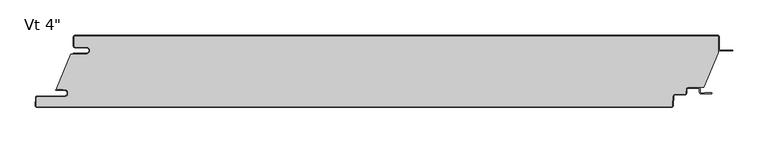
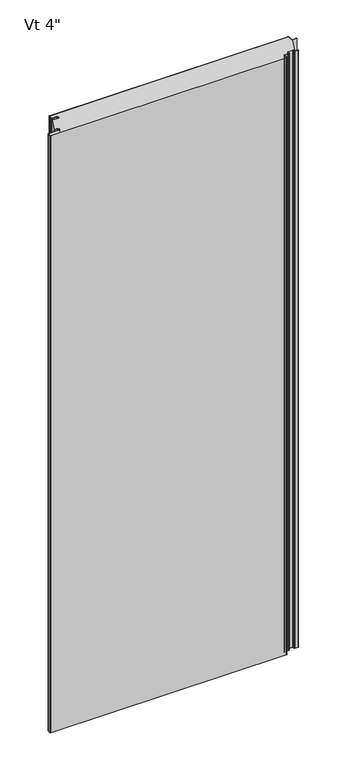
"""IFC4 building model written with IfcOpenShell, lengths in millimetres: plate geometry."""

from ifc_helpers import new_model, si_unit, point, frame, frame_2d, origin, origin_with_axes, place, context, project, spatial, polyline, circle_curve, ellipse_curve, trimmed, segment, composite_curve, outline, extrude, source, transform, mapped, element, save
from ifc_brep_helpers import plane_surface, cylinder_surface, revolved_surface, extruded_surface, advanced_brep


def plate_ccc09a26(model_context):
    return source(origin(), model_context, "Body", "SolidModel", [
        extrude(outline(composite_curve([segment(polyline([(-438.1437502, -16.4625), (-454.0187502, -16.4625)]), True, "CONTINUOUS"), segment(trimmed(circle_curve(frame_2d((-454.0187502, -15.08125)), 1.38125), [point((-454.0187502, -16.4625))], [point((-455.4000002, -15.08125))], False, "CARTESIAN"), True, "CONTINUOUS"), segment(polyline([(-455.4000002, -15.08125), (-455.4000002, -2.38125)]), True, "CONTINUOUS"), segment(trimmed(circle_curve(frame_2d((-454.0187502, -2.38125)), 1.38125), [point((-455.4000002, -2.38125))], [point((-454.0187502, -1.0))], False, "CARTESIAN"), True, "CONTINUOUS"), segment(polyline([(-454.0187502, -1.0), (454.0312498, -1.0)]), True, "CONTINUOUS"), segment(trimmed(circle_curve(frame_2d((454.0312498, -2.38125)), 1.38125), [point((454.0312498, -1.0))], [point((455.4124998, -2.38125))], False, "CARTESIAN"), True, "CONTINUOUS"), segment(polyline([(455.4124998, -2.38125), (455.4124998, -24.9057308), (434.5955432, -73.6125), (412.1540781, -73.6125)]), True, "CONTINUOUS"), segment(trimmed(circle_curve(frame_2d((412.1540781, -76.2)), 2.5875), [point((412.1540781, -73.6125))], [point((409.5701242, -76.0645807))], True, "CARTESIAN"), True, "CONTINUOUS"), segment(polyline([(409.5701242, -76.0645807), (409.2680479, -81.828539)]), True, "CONTINUOUS"), segment(trimmed(circle_curve(frame_2d((407.8886909, -81.75625)), 1.38125), [point((409.2680479, -81.828539))], [point((407.8886909, -83.1375))], False, "CARTESIAN"), True, "CONTINUOUS"), segment(polyline([(407.8886909, -83.1375), (393.7323845, -83.1375)]), True, "CONTINUOUS"), segment(trimmed(circle_curve(frame_2d((393.7323845, -85.725)), 2.5875), [point((393.7323845, -83.1375))], [point((391.1484306, -85.5895807))], True, "CARTESIAN"), True, "CONTINUOUS"), segment(polyline([(391.1484306, -85.5895807), (390.4303676, -99.291039)]), True, "CONTINUOUS"), segment(trimmed(circle_curve(frame_2d((389.0510105, -99.21875)), 1.38125), [point((390.4303676, -99.291039))], [point((389.0510105, -100.6))], False, "CARTESIAN"), True, "CONTINUOUS"), segment(polyline([(389.0510105, -100.6), (-507.8799537, -100.6)]), True, "CONTINUOUS"), segment(trimmed(circle_curve(frame_2d((-507.8799537, -99.21875)), 1.38125), [point((-507.8799537, -100.6))], [point((-509.2593107, -99.146461))], False, "CARTESIAN"), True, "CONTINUOUS"), segment(polyline([(-509.2593107, -99.146461), (-508.6769293, -88.033961)]), True, "CONTINUOUS"), segment(trimmed(circle_curve(frame_2d((-507.2975722, -88.10625)), 1.38125), [point((-508.6769293, -88.033961))], [point((-507.2975722, -86.725))], False, "CARTESIAN"), True, "CONTINUOUS"), segment(polyline([(-507.2975722, -86.725), (-469.1142676, -86.725)]), True, "CONTINUOUS"), segment(trimmed(circle_curve(frame_2d((-469.1142676, -81.75625)), 4.96875), [point((-469.1142676, -86.725))], [point((-469.1142676, -76.7875))], True, "CARTESIAN"), True, "CONTINUOUS"), segment(polyline([(-469.1142676, -76.7875), (-470.7017676, -76.99375), (-470.7017676, -76.2), (-480.2125002, -76.2), (-480.2125002, -74.6157227), (-460.3260924, -26.4), (-438.1437502, -26.4)]), True, "CONTINUOUS"), segment(trimmed(circle_curve(frame_2d((-438.1437502, -21.43125)), 4.96875), [point((-438.1437502, -26.4))], [point((-438.1437502, -16.4625))], True, "CARTESIAN"), True, "CONTINUOUS")], self_intersect=False)), origin_with_axes(), (0.0, 0.0, 1.0), 2400.0),
        extrude(outline(composite_curve([segment(polyline([(-456.4000002, -25.4), (-438.1437502, -25.4)]), True, "CONTINUOUS"), segment(trimmed(circle_curve(frame_2d((-438.1437502, -21.43125)), 3.96875), [point((-438.1437502, -25.4))], [point((-438.1437502, -17.4625))], True, "CARTESIAN"), True, "CONTINUOUS"), segment(polyline([(-438.1437502, -17.4625), (-454.0187502, -17.4625)]), True, "CONTINUOUS"), segment(trimmed(circle_curve(frame_2d((-454.0187502, -15.08125)), 2.38125), [point((-454.0187502, -17.4625))], [point((-456.4000002, -15.08125))], False, "CARTESIAN"), True, "CONTINUOUS"), segment(polyline([(-456.4000002, -15.08125), (-456.4000002, -2.38125)]), True, "CONTINUOUS"), segment(trimmed(circle_curve(frame_2d((-454.0187502, -2.38125)), 2.38125), [point((-456.4000002, -2.38125))], [point((-454.0187502, 0.0))], False, "CARTESIAN"), True, "CONTINUOUS"), segment(polyline([(-454.0187502, 0.0), (454.0312498, 0.0)]), True, "CONTINUOUS"), segment(trimmed(circle_curve(frame_2d((454.0312498, -2.38125)), 2.38125), [point((454.0312498, 0.0))], [point((456.4124998, -2.38125))], False, "CARTESIAN"), True, "CONTINUOUS"), segment(polyline([(456.4124998, -2.38125), (456.4124998, -19.446875)]), True, "CONTINUOUS"), segment(trimmed(circle_curve(frame_2d((457.9999998, -19.446875)), 1.5875), [point((456.4124998, -19.446875))], [point((457.9999998, -21.034375))], True, "CARTESIAN"), True, "CONTINUOUS"), segment(polyline([(457.9999998, -21.034375), (475.4624998, -21.034375), (475.4624998, -22.034375), (457.9999998, -22.034375)]), True, "CONTINUOUS"), segment(trimmed(circle_curve(frame_2d((457.9999998, -19.446875)), 2.5875), [point((457.9999998, -22.034375))], [point((455.4124998, -19.446875))], False, "CARTESIAN"), True, "CONTINUOUS"), segment(polyline([(455.4124998, -19.446875), (455.4124998, -2.38125)]), True, "CONTINUOUS"), segment(trimmed(circle_curve(frame_2d((454.0312498, -2.38125)), 1.38125), [point((455.4124998, -2.38125))], [point((454.0312498, -1.0))], True, "CARTESIAN"), True, "CONTINUOUS"), segment(polyline([(454.0312498, -1.0), (-454.0187502, -1.0)]), True, "CONTINUOUS"), segment(trimmed(circle_curve(frame_2d((-454.0187502, -2.38125)), 1.38125), [point((-454.0187502, -1.0))], [point((-455.4000002, -2.38125))], True, "CARTESIAN"), True, "CONTINUOUS"), segment(polyline([(-455.4000002, -2.38125), (-455.4000002, -15.08125)]), True, "CONTINUOUS"), segment(trimmed(circle_curve(frame_2d((-454.0187502, -15.08125)), 1.38125), [point((-455.4000002, -15.08125))], [point((-454.0187502, -16.4625))], True, "CARTESIAN"), True, "CONTINUOUS"), segment(polyline([(-454.0187502, -16.4625), (-438.1437502, -16.4625)]), True, "CONTINUOUS"), segment(trimmed(circle_curve(frame_2d((-438.1437502, -21.43125)), 4.96875), [point((-438.1437502, -16.4625))], [point((-438.1437502, -26.4))], False, "CARTESIAN"), True, "CONTINUOUS"), segment(polyline([(-438.1437502, -26.4), (-456.4000002, -26.4), (-456.4000002, -25.4)]), True, "CONTINUOUS")], self_intersect=False)), origin_with_axes(), (0.0, 0.0, 1.0), 2400.0),
        advanced_brep(
        [(-480.4252051, -76.2, 2400.0), (-480.4252051, -77.7875, 2400.0), (-469.1142676, -77.7875, 2400.0), (-469.1142676, -85.725, 2400.0), (-507.2975722, -85.725, 2400.0), (-509.6755588, -87.981625, 2400.0), (-510.2579402, -99.094125, 2400.0), (-507.8799537, -101.6, 2400.0), (389.0510105, -101.6, 2400.0), (391.4289971, -99.343375, 2400.0), (392.1470601, -85.6419167, 2400.0), (393.7323845, -84.1375, 2400.0), (407.8886909, -84.1375, 2400.0), (410.2666775, -81.880875, 2400.0), (410.5687537, -76.1169167, 2400.0), (412.1540781, -74.6125, 2400.0), (427.0294824, -74.6125, 2400.0), (428.6169824, -76.2, 2400.0), (428.6169824, -80.3671875, 2400.0), (430.9982324, -82.7484375, 2400.0), (445.489853, -82.7484375, 2400.0), (445.489853, -80.9546875, 2400.0), (435.7607324, -80.9546875, 2400.0), (435.7607324, -81.7484375, 2400.0), (430.9982324, -81.7484375, 2400.0), (429.6169824, -80.3671875, 2400.0), (429.6169824, -76.2, 2400.0), (427.0294824, -73.6125, 2400.0), (412.1540781, -73.6125, 2400.0), (409.5701242, -76.0645807, 2400.0), (409.2680479, -81.828539, 2400.0), (407.8886909, -83.1375, 2400.0), (393.7323845, -83.1375, 2400.0), (391.1484306, -85.5895807, 2400.0), (390.4303676, -99.291039, 2400.0), (389.0510105, -100.6, 2400.0), (-507.8799537, -100.6, 2400.0), (-509.2593107, -99.146461, 2400.0), (-508.6769293, -88.033961, 2400.0), (-507.2975722, -86.725, 2400.0), (-469.1142676, -86.725, 2400.0), (-469.1142676, -76.7875, 2400.0), (-470.7017676, -76.99375, 2400.0), (-470.7017676, -76.2, 2400.0), (-480.4252051, -76.2, 0.0), (-470.7017676, -76.2, 0.0), (-470.7017676, -76.99375, 0.0), (-469.1142676, -76.7875, 0.0), (-469.1142676, -86.725, 0.0), (-507.2975722, -86.725, 0.0), (-508.6769293, -88.033961, 0.0), (-509.2593107, -99.146461, 0.0), (-507.8799537, -100.6, 0.0), (389.0510105, -100.6, 0.0), (390.4303676, -99.291039, 0.0), (391.1484306, -85.5895807, 0.0), (393.7323845, -83.1375, 0.0), (407.8886909, -83.1375, 0.0), (409.2680479, -81.828539, 0.0), (409.5701242, -76.0645807, 0.0), (412.1540781, -73.6125, 0.0), (427.0294824, -73.6125, 0.0), (429.6169824, -76.2, 0.0), (429.6169824, -80.3671875, 0.0), (430.9982324, -81.7484375, 0.0), (435.7607324, -81.7484375, 0.0), (435.7607324, -80.9546875, 0.0), (445.489853, -80.9546875, 0.0), (445.489853, -82.7484375, 0.0), (430.9982324, -82.7484375, 0.0), (428.6169824, -80.3671875, 0.0), (428.6169824, -76.2, 0.0), (427.0294824, -74.6125, 0.0), (412.1540781, -74.6125, 0.0), (410.5687537, -76.1169167, 0.0), (410.2666775, -81.880875, 0.0), (407.8886909, -84.1375, 0.0), (393.7323845, -84.1375, 0.0), (392.1470601, -85.6419167, 0.0), (391.4289971, -99.343375, 0.0), (389.0510105, -101.6, 0.0), (-507.8799537, -101.6, 0.0), (-510.2579402, -99.094125, 0.0), (-509.6755588, -87.981625, 0.0), (-507.2975722, -85.725, 0.0), (-469.1142676, -85.725, 0.0), (-469.1142676, -77.7875, 0.0), (-480.4252051, -77.7875, 0.0)],
        [
            (0, 1, circle_curve(frame((-480.4252051, -76.99375, 2400.0), z_axis=(0.0, 0.0, 1.0), x_axis=(-1.0, 0.0, 0.0)), 0.79375)),
            (1, 2),
            (2, 3, circle_curve(frame((-469.1142676, -81.75625, 2400.0), z_axis=(0.0, 0.0, -1.0), x_axis=(-1.0, 0.0, 0.0)), 3.96875)),
            (3, 4),
            (4, 5, circle_curve(frame((-507.2975722, -88.10625, 2400.0), z_axis=(0.0, 0.0, 1.0), x_axis=(-1.0, 0.0, 0.0)), 2.38125)),
            (5, 6),
            (6, 7, circle_curve(frame((-507.8799537, -99.21875, 2400.0), z_axis=(0.0, 0.0, 1.0), x_axis=(-1.0, 0.0, 0.0)), 2.38125)),
            (7, 8),
            (8, 9, circle_curve(frame((389.0510105, -99.21875, 2400.0), z_axis=(0.0, 0.0, 1.0), x_axis=(-1.0, 0.0, 0.0)), 2.38125)),
            (9, 10),
            (10, 11, circle_curve(frame((393.7323845, -85.725, 2400.0), z_axis=(0.0, 0.0, -1.0), x_axis=(-1.0, 0.0, 0.0)), 1.5875)),
            (11, 12),
            (12, 13, circle_curve(frame((407.8886909, -81.75625, 2400.0), z_axis=(0.0, 0.0, 1.0), x_axis=(-1.0, 0.0, 0.0)), 2.38125)),
            (13, 14),
            (14, 15, circle_curve(frame((412.1540781, -76.2, 2400.0), z_axis=(0.0, 0.0, -1.0), x_axis=(-1.0, 0.0, 0.0)), 1.5875)),
            (15, 16),
            (16, 17, circle_curve(frame((427.0294824, -76.2, 2400.0), z_axis=(0.0, 0.0, -1.0), x_axis=(-1.0, 0.0, 0.0)), 1.5875)),
            (17, 18),
            (18, 19, circle_curve(frame((430.9982324, -80.3671875, 2400.0), z_axis=(0.0, 0.0, 1.0), x_axis=(-1.0, 0.0, 0.0)), 2.38125)),
            (19, 20),
            (20, 21, ellipse_curve(frame((445.489853, -81.8515625, 2400.0), z_axis=(0.0, 0.0, 1.0), x_axis=(0.0, 1.0, 0.0)), 0.896875, 0.7852275)),
            (21, 22),
            (22, 23),
            (23, 24),
            (24, 25, circle_curve(frame((430.9982324, -80.3671875, 2400.0), z_axis=(0.0, 0.0, -1.0), x_axis=(-1.0, 0.0, 0.0)), 1.38125)),
            (25, 26),
            (26, 27, circle_curve(frame((427.0294824, -76.2, 2400.0), z_axis=(0.0, 0.0, 1.0), x_axis=(-1.0, 0.0, 0.0)), 2.5875)),
            (27, 28),
            (28, 29, circle_curve(frame((412.1540781, -76.2, 2400.0), z_axis=(0.0, 0.0, 1.0), x_axis=(-1.0, 0.0, 0.0)), 2.5875)),
            (29, 30),
            (30, 31, circle_curve(frame((407.8886909, -81.75625, 2400.0), z_axis=(0.0, 0.0, -1.0), x_axis=(-1.0, 0.0, 0.0)), 1.38125)),
            (31, 32),
            (32, 33, circle_curve(frame((393.7323845, -85.725, 2400.0), z_axis=(0.0, 0.0, 1.0), x_axis=(-1.0, 0.0, 0.0)), 2.5875)),
            (33, 34),
            (34, 35, circle_curve(frame((389.0510105, -99.21875, 2400.0), z_axis=(0.0, 0.0, -1.0), x_axis=(-1.0, 0.0, 0.0)), 1.38125)),
            (35, 36),
            (36, 37, circle_curve(frame((-507.8799537, -99.21875, 2400.0), z_axis=(0.0, 0.0, -1.0), x_axis=(-1.0, 0.0, 0.0)), 1.38125)),
            (37, 38),
            (38, 39, circle_curve(frame((-507.2975722, -88.10625, 2400.0), z_axis=(0.0, 0.0, -1.0), x_axis=(-1.0, 0.0, 0.0)), 1.38125)),
            (39, 40),
            (40, 41, circle_curve(frame((-469.1142676, -81.75625, 2400.0), z_axis=(0.0, 0.0, 1.0), x_axis=(-1.0, 0.0, 0.0)), 4.96875)),
            (41, 42),
            (42, 43),
            (43, 0),
            (44, 45),
            (45, 46),
            (46, 47),
            (47, 48, circle_curve(frame((-469.1142676, -81.75625, 0.0), z_axis=(0.0, 0.0, -1.0), x_axis=(-1.0, 0.0, 0.0)), 4.96875)),
            (48, 49),
            (49, 50, circle_curve(frame((-507.2975722, -88.10625, 0.0), z_axis=(0.0, 0.0, 1.0), x_axis=(-1.0, 0.0, 0.0)), 1.38125)),
            (50, 51),
            (51, 52, circle_curve(frame((-507.8799537, -99.21875, 0.0), z_axis=(0.0, 0.0, 1.0), x_axis=(-1.0, 0.0, 0.0)), 1.38125)),
            (52, 53),
            (53, 54, circle_curve(frame((389.0510105, -99.21875, 0.0), z_axis=(0.0, 0.0, 1.0), x_axis=(-1.0, 0.0, 0.0)), 1.38125)),
            (54, 55),
            (55, 56, circle_curve(frame((393.7323845, -85.725, 0.0), z_axis=(0.0, 0.0, -1.0), x_axis=(-1.0, 0.0, 0.0)), 2.5875)),
            (56, 57),
            (57, 58, circle_curve(frame((407.8886909, -81.75625, 0.0), z_axis=(0.0, 0.0, 1.0), x_axis=(-1.0, 0.0, 0.0)), 1.38125)),
            (58, 59),
            (59, 60, circle_curve(frame((412.1540781, -76.2, 0.0), z_axis=(0.0, 0.0, -1.0), x_axis=(-1.0, 0.0, 0.0)), 2.5875)),
            (60, 61),
            (61, 62, circle_curve(frame((427.0294824, -76.2, 0.0), z_axis=(0.0, 0.0, -1.0), x_axis=(-1.0, 0.0, 0.0)), 2.5875)),
            (62, 63),
            (63, 64, circle_curve(frame((430.9982324, -80.3671875, 0.0), z_axis=(0.0, 0.0, 1.0), x_axis=(-1.0, 0.0, 0.0)), 1.38125)),
            (64, 65),
            (65, 66),
            (66, 67),
            (67, 68, ellipse_curve(frame((445.489853, -81.8515625, 0.0), z_axis=(0.0, 0.0, -1.0), x_axis=(0.0, 1.0, 0.0)), 0.896875, 0.7852275)),
            (68, 69),
            (69, 70, circle_curve(frame((430.9982324, -80.3671875, 0.0), z_axis=(0.0, 0.0, -1.0), x_axis=(-1.0, 0.0, 0.0)), 2.38125)),
            (70, 71),
            (71, 72, circle_curve(frame((427.0294824, -76.2, 0.0), z_axis=(0.0, 0.0, 1.0), x_axis=(-1.0, 0.0, 0.0)), 1.5875)),
            (72, 73),
            (73, 74, circle_curve(frame((412.1540781, -76.2, 0.0), z_axis=(0.0, 0.0, 1.0), x_axis=(-1.0, 0.0, 0.0)), 1.5875)),
            (74, 75),
            (75, 76, circle_curve(frame((407.8886909, -81.75625, 0.0), z_axis=(0.0, 0.0, -1.0), x_axis=(-1.0, 0.0, 0.0)), 2.38125)),
            (76, 77),
            (77, 78, circle_curve(frame((393.7323845, -85.725, 0.0), z_axis=(0.0, 0.0, 1.0), x_axis=(-1.0, 0.0, 0.0)), 1.5875)),
            (78, 79),
            (79, 80, circle_curve(frame((389.0510105, -99.21875, 0.0), z_axis=(0.0, 0.0, -1.0), x_axis=(-1.0, 0.0, 0.0)), 2.38125)),
            (80, 81),
            (81, 82, circle_curve(frame((-507.8799537, -99.21875, 0.0), z_axis=(0.0, 0.0, -1.0), x_axis=(-1.0, 0.0, 0.0)), 2.38125)),
            (82, 83),
            (83, 84, circle_curve(frame((-507.2975722, -88.10625, 0.0), z_axis=(0.0, 0.0, -1.0), x_axis=(-1.0, 0.0, 0.0)), 2.38125)),
            (84, 85),
            (85, 86, circle_curve(frame((-469.1142676, -81.75625, 0.0), z_axis=(0.0, 0.0, 1.0), x_axis=(-1.0, 0.0, 0.0)), 3.96875)),
            (86, 87),
            (87, 44, circle_curve(frame((-480.4252051, -76.99375, 0.0), z_axis=(0.0, 0.0, -1.0), x_axis=(-1.0, 0.0, 0.0)), 0.79375)),
            (43, 45),
            (44, 0),
            (87, 1),
            (86, 2),
            (85, 3),
            (84, 4),
            (83, 5),
            (82, 6),
            (81, 7),
            (80, 8),
            (79, 9),
            (78, 10),
            (77, 11),
            (76, 12),
            (75, 13),
            (74, 14),
            (73, 15),
            (38, 50),
            (49, 39),
            (37, 51),
            (36, 52),
            (35, 53),
            (34, 54),
            (33, 55),
            (32, 56),
            (31, 57),
            (30, 58),
            (29, 59),
            (28, 60),
            (23, 65),
            (64, 24),
            (63, 25),
            (62, 26),
            (72, 16),
            (71, 17),
            (70, 18),
            (69, 19),
            (68, 20),
            (27, 61),
            (48, 40),
            (47, 41),
            (42, 46),
            (22, 66),
            (21, 67),
        ],
        [
            plane_surface(frame((0.0062498, -101.6, 2400.0), z_axis=(0.0, 0.0, 1.0), x_axis=(0.0, -1.0, 0.0))),
            plane_surface(frame((0.0062498, -101.6, 0.0), z_axis=(0.0, 0.0, -1.0), x_axis=(0.0, -1.0, 0.0))),
            plane_surface(frame((-480.4252051, -76.2, 2400.0), z_axis=(0.0, 1.0, 0.0), x_axis=(0.0, 0.0, -1.0))),
            cylinder_surface(frame((-480.4252051, -76.99375, 2400.0), z_axis=(0.0, 0.0, 1.0), x_axis=(-1.0, 0.0, 0.0)), 0.79375),
            plane_surface(frame((-469.1142676, -77.7875, 2400.0), z_axis=(0.0, -1.0, 0.0), x_axis=(0.0, 0.0, -1.0))),
            revolved_surface(polyline([(-473.0830176, -81.75625, 0.0), (-473.0830176, -81.75625, 2400.0)]), (-469.1142676, -81.75625, 2400.0), (0.0, 0.0, -1.0)),
            plane_surface(frame((-507.2975722, -85.725, 2400.0), z_axis=(0.0, 1.0, 0.0), x_axis=(0.0, 0.0, -1.0))),
            cylinder_surface(frame((-507.2975722, -88.10625, 2400.0), z_axis=(0.0, 0.0, 1.0), x_axis=(-1.0, 0.0, 0.0)), 2.38125),
            plane_surface(frame((-510.2579402, -99.094125, 2400.0), z_axis=(-0.9986295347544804, 0.05233595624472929, 0.0), x_axis=(0.0, 0.0, -1.0))),
            cylinder_surface(frame((-507.8799537, -99.21875, 2400.0), z_axis=(0.0, 0.0, 1.0), x_axis=(-1.0, 0.0, 0.0)), 2.38125),
            plane_surface(frame((389.0510105, -101.6, 2400.0), z_axis=(0.0, -1.0, 0.0), x_axis=(0.0, 0.0, -1.0))),
            cylinder_surface(frame((389.0510105, -99.21875, 2400.0), z_axis=(0.0, 0.0, 1.0), x_axis=(-1.0, 0.0, 0.0)), 2.38125),
            plane_surface(frame((392.1470601, -85.6419167, 2400.0), z_axis=(0.9986295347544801, -0.05233595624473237, 0.0), x_axis=(0.0, 0.0, -1.0))),
            revolved_surface(polyline([(392.14488450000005, -85.725, 0.0), (392.14488450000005, -85.725, 2400.0)]), (393.7323845, -85.725, 2400.0), (0.0, 0.0, -1.0)),
            plane_surface(frame((407.8886909, -84.1375, 2400.0), z_axis=(0.0, -1.0, 0.0), x_axis=(0.0, 0.0, -1.0))),
            cylinder_surface(frame((407.8886909, -81.75625, 2400.0), z_axis=(0.0, 0.0, 1.0), x_axis=(-1.0, 0.0, 0.0)), 2.38125),
            plane_surface(frame((410.5687537, -76.1169167, 2400.0), z_axis=(0.9986295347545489, -0.05233595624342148, 0.0), x_axis=(0.0, 0.0, -1.0))),
            revolved_surface(polyline([(410.5665781, -76.2, 0.0), (410.5665781, -76.2, 2400.0)]), (412.1540781, -76.2, 2400.0), (0.0, 0.0, -1.0)),
            revolved_surface(polyline([(-508.6788222, -88.10625, 0.0), (-508.6788222, -88.10625, 2400.0)]), (-507.2975722, -88.10625, 2400.0), (0.0, 0.0, -1.0)),
            plane_surface(frame((-508.6769293, -88.033961, 2400.0), z_axis=(0.9986295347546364, -0.05233595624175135, 0.0), x_axis=(0.0, 0.0, -1.0))),
            revolved_surface(polyline([(-509.2612037, -99.21875, 0.0), (-509.2612037, -99.21875, 2400.0)]), (-507.8799537, -99.21875, 2400.0), (0.0, 0.0, -1.0)),
            plane_surface(frame((-507.8799537, -100.6, 2400.0), z_axis=(0.0, 1.0, 0.0), x_axis=(0.0, 0.0, -1.0))),
            revolved_surface(polyline([(387.6697605, -99.21875, 0.0), (387.6697605, -99.21875, 2400.0)]), (389.0510105, -99.21875, 2400.0), (0.0, 0.0, -1.0)),
            plane_surface(frame((390.4303676, -99.291039, 2400.0), z_axis=(-0.9986295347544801, 0.05233595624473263, 0.0), x_axis=(0.0, 0.0, -1.0))),
            cylinder_surface(frame((393.7323845, -85.725, 2400.0), z_axis=(0.0, 0.0, 1.0), x_axis=(-1.0, 0.0, 0.0)), 2.5875),
            plane_surface(frame((393.7323845, -83.1375, 2400.0), z_axis=(0.0, 1.0, 0.0), x_axis=(0.0, 0.0, -1.0))),
            revolved_surface(polyline([(406.50744089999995, -81.75625, 0.0), (406.50744089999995, -81.75625, 2400.0)]), (407.8886909, -81.75625, 2400.0), (0.0, 0.0, -1.0)),
            plane_surface(frame((409.2680479, -81.828539, 2400.0), z_axis=(-0.998629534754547, 0.05233595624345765, 0.0), x_axis=(0.0, 0.0, -1.0))),
            cylinder_surface(frame((412.1540781, -76.2, 2400.0), z_axis=(0.0, 0.0, 1.0), x_axis=(-1.0, 0.0, 0.0)), 2.5875),
            plane_surface(frame((430.9982324, -81.7484375, 2400.0), z_axis=(0.0, 1.0, 0.0), x_axis=(0.0, 0.0, -1.0))),
            revolved_surface(polyline([(429.6169824, -80.3671875, 0.0), (429.6169824, -80.3671875, 2400.0)]), (430.9982324, -80.3671875, 2400.0), (0.0, 0.0, -1.0)),
            plane_surface(frame((429.6169824, -76.2, 2400.0), z_axis=(1.0, 0.0, 0.0), x_axis=(0.0, 0.0, -1.0))),
            plane_surface(frame((427.0294824, -74.6125, 2400.0), z_axis=(0.0, -1.0, 0.0), x_axis=(0.0, 0.0, -1.0))),
            revolved_surface(polyline([(425.44198240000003, -76.2, 0.0), (425.44198240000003, -76.2, 2400.0)]), (427.0294824, -76.2, 2400.0), (0.0, 0.0, -1.0)),
            plane_surface(frame((428.6169824, -80.3671875, 2400.0), z_axis=(-1.0, 0.0, 0.0), x_axis=(0.0, 0.0, -1.0))),
            cylinder_surface(frame((430.9982324, -80.3671875, 2400.0), z_axis=(0.0, 0.0, 1.0), x_axis=(-1.0, 0.0, 0.0)), 2.38125),
            plane_surface(frame((445.489853, -82.7484375, 2400.0), z_axis=(0.0, -1.0, 0.0), x_axis=(0.0, 0.0, -1.0))),
            plane_surface(frame((412.1540781, -73.6125, 2400.0), z_axis=(0.0, 1.0, 0.0), x_axis=(0.0, 0.0, -1.0))),
            cylinder_surface(frame((427.0294824, -76.2, 2400.0), z_axis=(0.0, 0.0, 1.0), x_axis=(-1.0, 0.0, 0.0)), 2.5875),
            plane_surface(frame((-469.1142676, -86.725, 2400.0), z_axis=(0.0, -1.0, 0.0), x_axis=(0.0, 0.0, -1.0))),
            cylinder_surface(frame((-469.1142676, -81.75625, 2400.0), z_axis=(0.0, 0.0, 1.0), x_axis=(-1.0, 0.0, 0.0)), 4.96875),
            plane_surface(frame((-470.7017676, -76.2, 2400.0), z_axis=(1.0, 0.0, 0.0), x_axis=(0.0, 0.0, -1.0))),
            plane_surface(frame((-470.7017676, -76.99375, 2400.0), z_axis=(-0.12883844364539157, 0.9916655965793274, 0.0), x_axis=(0.0, 0.0, -1.0))),
            plane_surface(frame((435.7607324, -81.7484375, 2400.0), z_axis=(-1.0, 0.0, 0.0), x_axis=(0.0, 0.0, -1.0))),
            plane_surface(frame((435.7607324, -80.9546875, 2400.0), z_axis=(0.0, 1.0, 0.0), x_axis=(0.0, 0.0, -1.0))),
            extruded_surface(trimmed(ellipse_curve(frame((445.489853, -81.8515625, 2400.0), z_axis=(0.0, 0.0, -1.0), x_axis=(0.0, 1.0, 0.0)), 0.896875, 0.7852275), [point((445.489853, -80.9546875, 2400.0))], [point((445.489853, -82.7484375, 2400.0))], True, "CARTESIAN"), (0.0, 0.0, -2400.0), 2400.0),
        ],
        [
            (0, [[1, 2, 3, 4, 5, 6, 7, 8, 9, 10, 11, 12, 13, 14, 15, 16, 17, 18, 19, 20, 21, 22, 23, 24, 25, 26, 27, 28, 29, 30, 31, 32, 33, 34, 35, 36, 37, 38, 39, 40, 41, 42, 43, 44]]),
            (1, [[45, 46, 47, 48, 49, 50, 51, 52, 53, 54, 55, 56, 57, 58, 59, 60, 61, 62, 63, 64, 65, 66, 67, 68, 69, 70, 71, 72, 73, 74, 75, 76, 77, 78, 79, 80, 81, 82, 83, 84, 85, 86, 87, 88]]),
            (2, [[89, -45, 90, -44]]),
            (3, [[-90, -88, 91, -1]]),
            (4, [[-91, -87, 92, -2]]),
            (5, [[-92, -86, 93, -3]]),
            (6, [[-93, -85, 94, -4]]),
            (7, [[-94, -84, 95, -5]]),
            (8, [[-95, -83, 96, -6]]),
            (9, [[-96, -82, 97, -7]]),
            (10, [[-97, -81, 98, -8]]),
            (11, [[-98, -80, 99, -9]]),
            (12, [[-99, -79, 100, -10]]),
            (13, [[-100, -78, 101, -11]]),
            (14, [[-101, -77, 102, -12]]),
            (15, [[-102, -76, 103, -13]]),
            (16, [[-103, -75, 104, -14]]),
            (17, [[-104, -74, 105, -15]]),
            (18, [[106, -50, 107, -39]]),
            (19, [[108, -51, -106, -38]]),
            (20, [[109, -52, -108, -37]]),
            (21, [[110, -53, -109, -36]]),
            (22, [[111, -54, -110, -35]]),
            (23, [[112, -55, -111, -34]]),
            (24, [[113, -56, -112, -33]]),
            (25, [[114, -57, -113, -32]]),
            (26, [[115, -58, -114, -31]]),
            (27, [[116, -59, -115, -30]]),
            (28, [[117, -60, -116, -29]]),
            (29, [[118, -65, 119, -24]]),
            (30, [[-119, -64, 120, -25]]),
            (31, [[-120, -63, 121, -26]]),
            (32, [[-105, -73, 122, -16]]),
            (33, [[-122, -72, 123, -17]]),
            (34, [[-123, -71, 124, -18]]),
            (35, [[-124, -70, 125, -19]]),
            (36, [[-125, -69, 126, -20]]),
            (37, [[127, -61, -117, -28]]),
            (38, [[-121, -62, -127, -27]]),
            (39, [[-107, -49, 128, -40]]),
            (40, [[-128, -48, 129, -41]]),
            (41, [[130, -46, -89, -43]]),
            (42, [[-129, -47, -130, -42]]),
            (43, [[131, -66, -118, -23]]),
            (44, [[132, -67, -131, -22]]),
            (45, [[-126, -68, -132, -21]]),
        ],
    ),
    ])


if __name__ == "__main__":
    model = new_model("IFC4")
    model_context = context("Model", 3, world=origin())
    ifc_project = project(units=[si_unit("LENGTHUNIT", "METRE", prefix="MILLI")], contexts=[model_context])
    site = spatial("IfcSite", under=ifc_project)
    building = spatial("IfcBuilding", under=site)
    placement = place(None, origin())
    plate_shape = plate_ccc09a26(model_context)
    element("IfcPlate", 1, ObjectType="KIP-36-DWHR-R19-CP-Vt-F : Vt 4\"", at=placement, inside=building, context=model_context, shape_type="MappedRepresentation", body=[
        mapped(plate_shape, transform((0.0, 0.0, 0.0), x_axis=(1.0, 0.0, 0.0), y_axis=(0.0, 1.0, 0.0), z_axis=(0.0, 0.0, 1.0))),
    ])
    save(model, "model.ifc")
